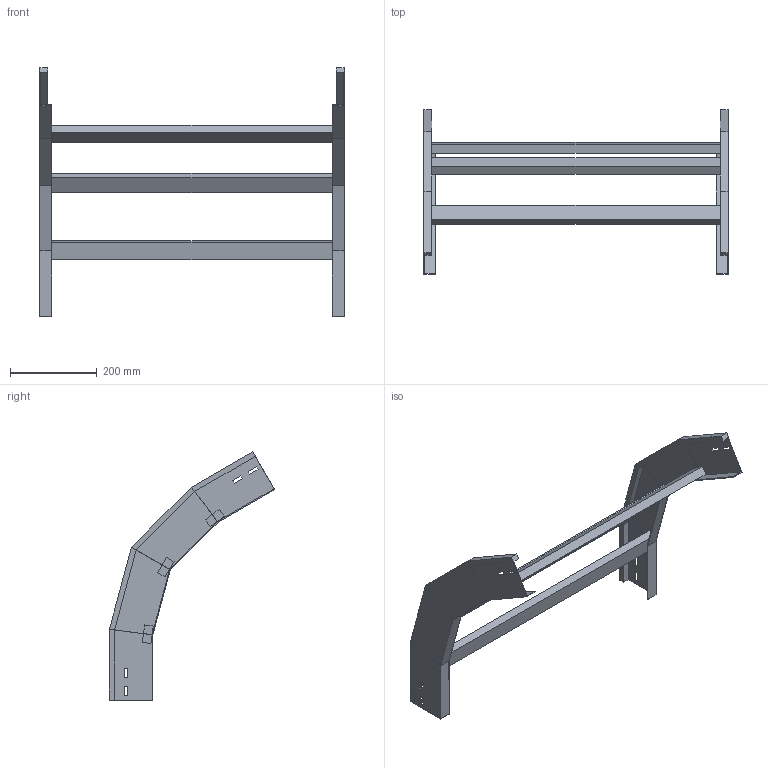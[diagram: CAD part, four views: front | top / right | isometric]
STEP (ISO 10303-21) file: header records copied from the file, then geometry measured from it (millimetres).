
FILE_DESCRIPTION (( 'STEP AP214' ), '1' );
FILE_NAME ('A2_41B3D700.step', '2025-02-21T14:56:49', ( '' ), ( '' ), 'SwSTEP 2.0', 'SolidWorks 2023', '' );
FILE_SCHEMA (( 'AUTOMOTIVE_DESIGN' ));
Length unit declared in the file: millimetre
Products named in the file (3): TRAVERSINO_700; LONGH.DISCESA_60°_H100_R300; A2_41B3D700
Assembly tree (5 placements, depth 2):
  A2_41B3D700
    LONGH.DISCESA_60°_H100_R300  x2
    TRAVERSINO_700  x3
Bounding box: 700 x 379.62 x 570.92 mm (x, y, z)
Volume: 2287764.7 mm3; surface area: 634833.5 mm2
Topology: 5 solids, 5 shells, 118 faces, 276 edges, 168 vertices
Faces by surface type: plane 118
Entity records: 1672 total; most frequent: CARTESIAN_POINT 276, ORIENTED_EDGE 264, DIRECTION 260, VECTOR 132, LINE 132, EDGE_CURVE 132, VERTEX_POINT 80, AXIS2_PLACEMENT_3D 64
